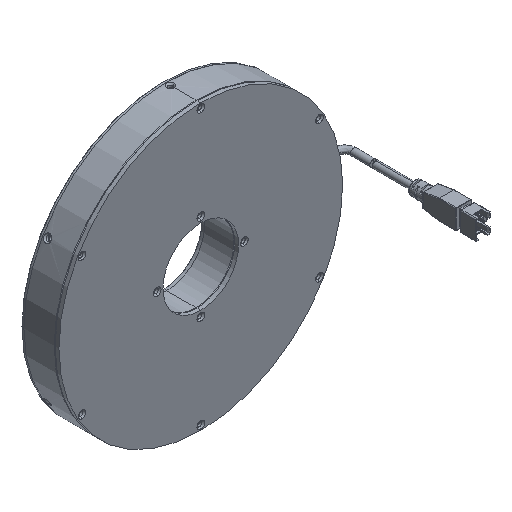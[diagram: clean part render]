
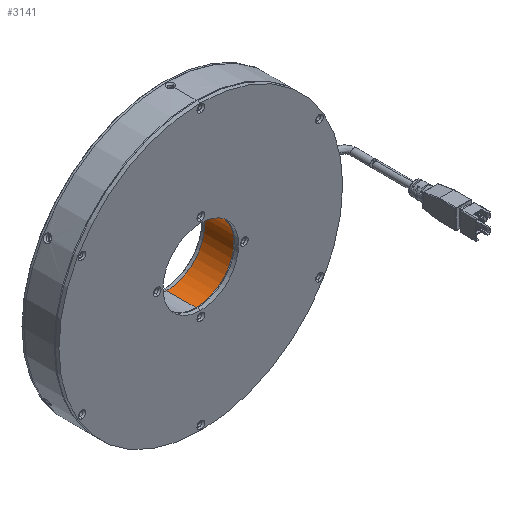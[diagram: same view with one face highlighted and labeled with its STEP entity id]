
A CAD part, isometric view. The second image highlights one B-rep face of the part: STEP entity #3141.
In plain terms, the highlighted cylindrical face has radius 20 mm (diameter 40 mm), a partial arc.
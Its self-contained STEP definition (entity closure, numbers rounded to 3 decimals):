
#208 = DIRECTION ( 'NONE',  ( 0., 0., 1. ) ) ;
#376 = EDGE_CURVE ( 'NONE', #9514, #6618, #10453, .T. ) ;
#877 = CARTESIAN_POINT ( 'NONE',  ( 0., 42.329, 20. ) ) ;
#1142 = DIRECTION ( 'NONE',  ( 0., 0., 1. ) ) ;
#1253 = AXIS2_PLACEMENT_3D ( 'NONE', #6895, #2372, #5051 ) ;
#1378 = AXIS2_PLACEMENT_3D ( 'NONE', #2764, #5555, #208 ) ;
#1399 = EDGE_LOOP ( 'NONE', ( #10378, #1798, #7431, #1649 ) ) ;
#1458 = CARTESIAN_POINT ( 'NONE',  ( 0., 7.889, -20. ) ) ;
#1649 = ORIENTED_EDGE ( 'NONE', *, *, #6141, .T. ) ;
#1665 = LINE ( 'NONE', #877, #8963 ) ;
#1798 = ORIENTED_EDGE ( 'NONE', *, *, #376, .T. ) ;
#2372 = DIRECTION ( 'NONE',  ( 0., 1., 0. ) ) ;
#2764 = CARTESIAN_POINT ( 'NONE',  ( 0., 7.889, 0. ) ) ;
#3141 = ADVANCED_FACE ( 'NONE', ( #5367 ), #3704, .F. ) ;
#3584 = LINE ( 'NONE', #5217, #5801 ) ;
#3704 = CYLINDRICAL_SURFACE ( 'NONE', #1253, 20. ) ;
#4773 = CARTESIAN_POINT ( 'NONE',  ( 0., 23.389, 0. ) ) ;
#4879 = CARTESIAN_POINT ( 'NONE',  ( 0., 23.389, 20. ) ) ;
#5051 = DIRECTION ( 'NONE',  ( 0., 0., 1. ) ) ;
#5217 = CARTESIAN_POINT ( 'NONE',  ( 0., 42.329, -20. ) ) ;
#5367 = FACE_OUTER_BOUND ( 'NONE', #1399, .T. ) ;
#5555 = DIRECTION ( 'NONE',  ( 0., -1., 0. ) ) ;
#5801 = VECTOR ( 'NONE', #8830, 1000. ) ;
#6141 = EDGE_CURVE ( 'NONE', #6692, #10276, #7426, .T. ) ;
#6186 = DIRECTION ( 'NONE',  ( 0., 1., 0. ) ) ;
#6524 = CARTESIAN_POINT ( 'NONE',  ( 0., 23.389, -20. ) ) ;
#6618 = VERTEX_POINT ( 'NONE', #10926 ) ;
#6692 = VERTEX_POINT ( 'NONE', #4879 ) ;
#6895 = CARTESIAN_POINT ( 'NONE',  ( 0., 42.329, 0. ) ) ;
#7184 = EDGE_CURVE ( 'NONE', #6618, #6692, #1665, .T. ) ;
#7426 = CIRCLE ( 'NONE', #10908, 20. ) ;
#7431 = ORIENTED_EDGE ( 'NONE', *, *, #7184, .T. ) ;
#8830 = DIRECTION ( 'NONE',  ( 0., 1., 0. ) ) ;
#8941 = EDGE_CURVE ( 'NONE', #9514, #10276, #3584, .T. ) ;
#8963 = VECTOR ( 'NONE', #6186, 1000. ) ;
#9206 = DIRECTION ( 'NONE',  ( 0., 1., 0. ) ) ;
#9514 = VERTEX_POINT ( 'NONE', #1458 ) ;
#10276 = VERTEX_POINT ( 'NONE', #6524 ) ;
#10378 = ORIENTED_EDGE ( 'NONE', *, *, #8941, .F. ) ;
#10453 = CIRCLE ( 'NONE', #1378, 20. ) ;
#10908 = AXIS2_PLACEMENT_3D ( 'NONE', #4773, #9206, #1142 ) ;
#10926 = CARTESIAN_POINT ( 'NONE',  ( 0., 7.889, 20. ) ) ;
